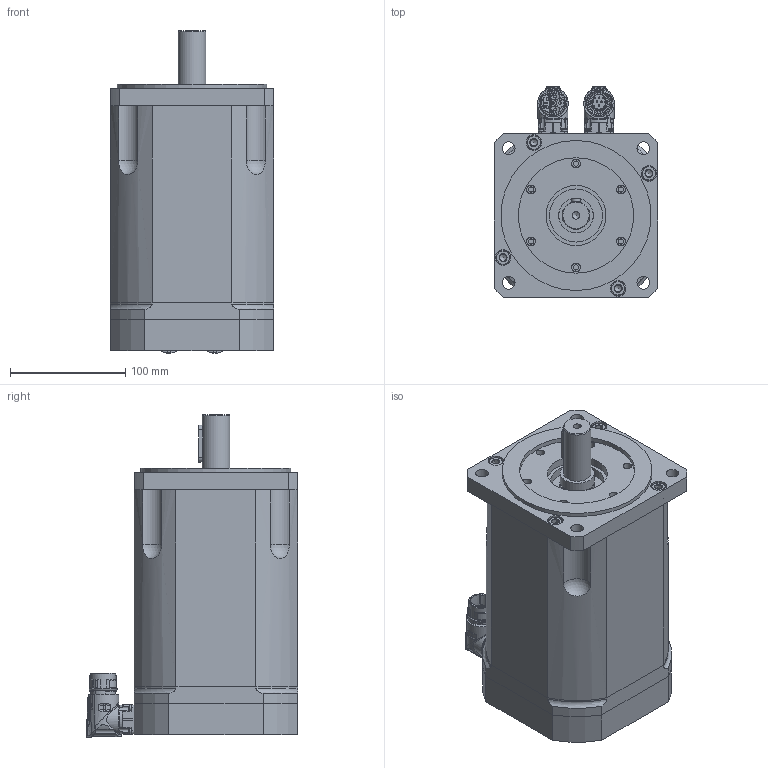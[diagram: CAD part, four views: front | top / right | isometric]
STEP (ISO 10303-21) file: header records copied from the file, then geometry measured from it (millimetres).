
FILE_DESCRIPTION(/* description */ (''),/* implementation_level */ '2;1');
FILE_NAME(/* name */ 'C:\Users\Public\Documents\Autodesk\Inventor LT 2014\Workspace\Motori Sito WEB\TG_5\STEP_DSM5_5x\DSM5_51_x197.stp',/* time_stamp */ '2021-03-31T14:15:35+02:00',/* author */ ('marcor'),/* organization */ (''),/* preprocessor_version */ 'ST-DEVELOPER v15.2',/* originating_system */ 'Autodesk Inventor LT ',/* authorisation */ '');
FILE_SCHEMA (('AUTOMOTIVE_DESIGN { 1 0 10303 214 3 1 1 }'));
Products named in the file (1): DSM5_51_x197
Bounding box: 142 x 183.5 x 279.41 mm (x, y, z)
Volume: 4204025.3 mm3; surface area: 314383.9 mm2
Topology: 16 solids, 32 shells, 1538 faces, 3983 edges, 2651 vertices
Faces by surface type: plane 536, cylinder 461, cone 319, bspline 113, torus 77, sphere 32
Full cylindrical faces by diameter (mm): 1.2 x12, 2.013 x8, 2.224 x8, 2.233 x6, 2.5 x8, 2.88 x8, 3.26 x8, 4.5 x8, 4.8 x8, 4.917 x4, 5.5 x3, 5.9 x2, 6 x4, 6.5 x4, 6.647 x9, 7.5 x6, 8 x8, 8.5 x8, 10 x4, 11 x8, 13 x8, 13.5 x8, 15.2 x1, 17.4 x3, 18 x1, 19.8 x1, 20 x2, 21.15 x4, 21.6 x1, 21.653 x2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
Entity records: 53954 total; most frequent: CARTESIAN_POINT 18246, ORIENTED_EDGE 7026, DIRECTION 6651, EDGE_CURVE 3513, AXIS2_PLACEMENT_3D 2710, VERTEX_POINT 2527, EDGE_LOOP 2084, ADVANCED_FACE 1538
